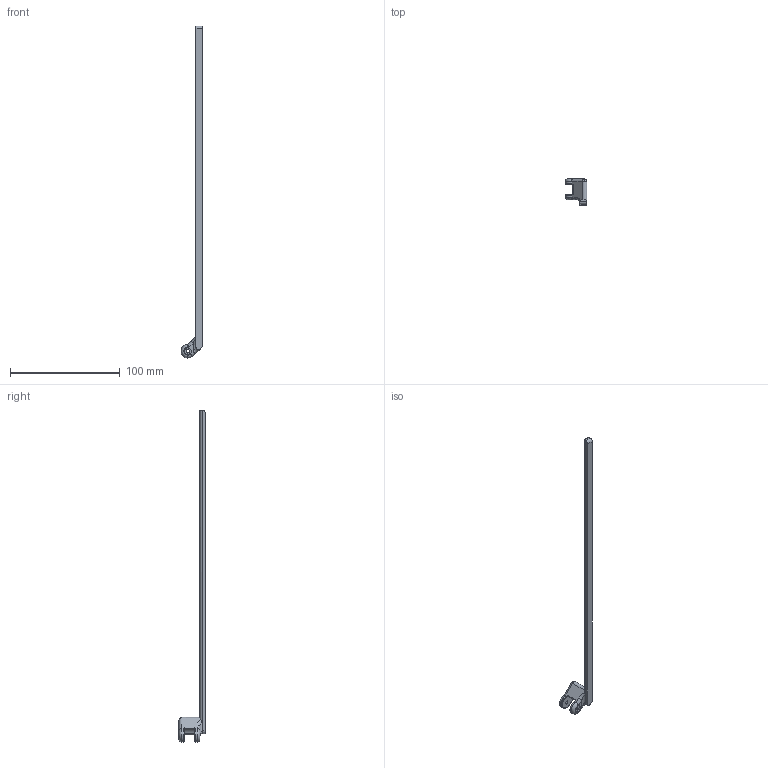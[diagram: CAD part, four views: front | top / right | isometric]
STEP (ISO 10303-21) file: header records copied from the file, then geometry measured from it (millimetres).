
FILE_DESCRIPTION (( 'STEP AP214' ), '1' );
FILE_NAME ('HingeBar2.STEP', '2021-11-17T20:30:21', ( '' ), ( '' ), 'SwSTEP 2.0', 'SolidWorks 2021', '' );
FILE_SCHEMA (( 'AUTOMOTIVE_DESIGN' ));
Length unit declared in the file: inch
Products named in the file (1): HingeBar2
Bounding box: 19.93 x 23.75 x 302.3 mm (x, y, z)
Volume: 11345.8 mm3; surface area: 7514.9 mm2
Topology: 1 solids, 1 shells, 60 faces, 149 edges, 92 vertices
Faces by surface type: cylinder 28, plane 19, torus 9, sphere 2, bspline 2
Entity records: 1972 total; most frequent: CARTESIAN_POINT 506, DIRECTION 307, ORIENTED_EDGE 296, EDGE_CURVE 148, AXIS2_PLACEMENT_3D 119, VERTEX_POINT 92, VECTOR 69, LINE 69
